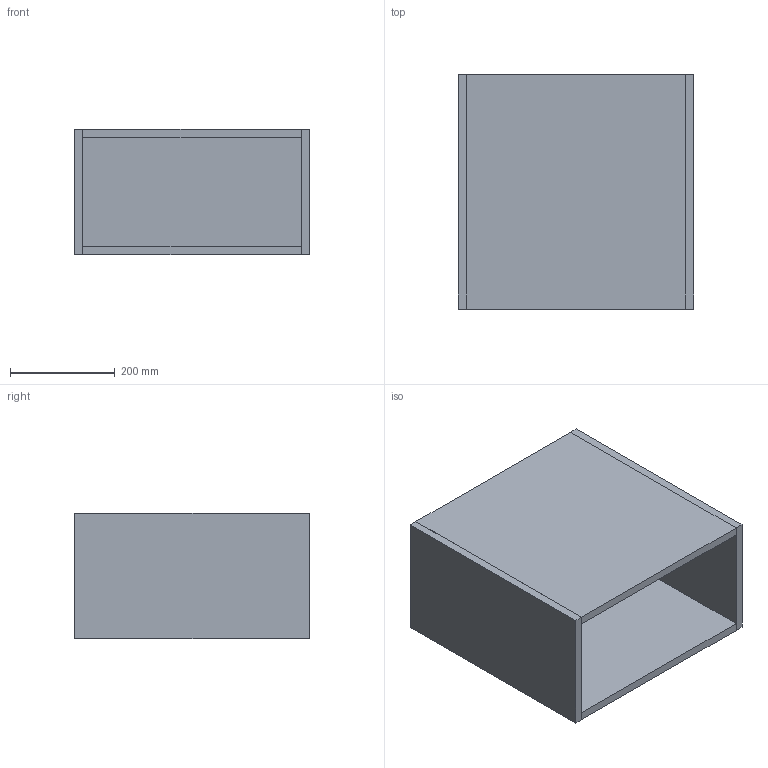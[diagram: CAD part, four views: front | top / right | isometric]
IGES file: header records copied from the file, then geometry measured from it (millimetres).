
Start section: Data from Parasolid IGES Translator 19.0.9, Copyright(c) 2006 Siemens PL M Software. All Rights Reserved.
Global section: file name: noorth-SI-H 24 D 47 W 45_8298.igs; native system: By Siemens PLM Incorporated; preprocessor: XPlus GENERIC/IGES 19.0.9; author: Noname; organization: Noname; date: 20200530.114850; units: metre
Bounding box: 450.01 x 448.06 x 240 mm (x, y, z)
Volume: 9681356.4 mm3; surface area: 1456006.4 mm2
Topology: 5 solids, 5 shells, 30 faces, 60 edges, 40 vertices
Faces by surface type: plane 30
